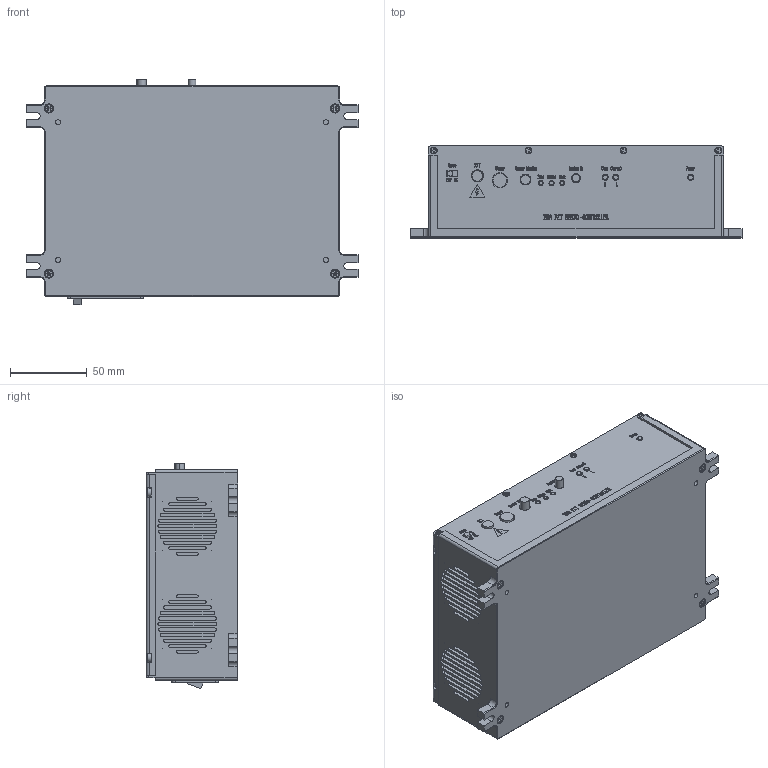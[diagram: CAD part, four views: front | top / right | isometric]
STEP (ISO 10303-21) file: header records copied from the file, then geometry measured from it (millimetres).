
FILE_DESCRIPTION (( 'STEP AP203' ), '1' );
FILE_NAME ('E52.B1S-H梓袧唳萇埭3D耀倰2021.09.27.STEP', '2021-09-27T01:06:27', ( 'Micorosoft' ), ( 'Micorosoft' ), 'SwSTEP 2.0', 'SolidWorks 2016', '' );
FILE_SCHEMA (( 'CONFIG_CONTROL_DESIGN' ));
Products named in the file (1): E52.B1S-H梓袧唳萇埭3D耀倰2021.09.27
Bounding box: 217 x 60 x 147.24 mm (x, y, z)
Volume: 1650944.4 mm3; surface area: 169085.9 mm2
Topology: 20 solids, 20 shells, 3154 faces, 8641 edges, 5671 vertices
Faces by surface type: plane 1711, bspline 895, cylinder 403, cone 137, torus 8
Entity records: 141949 total; most frequent: CARTESIAN_POINT 67423, ORIENTED_EDGE 17138, DIRECTION 12307, EDGE_CURVE 8569, VERTEX_POINT 5671, LINE 5663, VECTOR 5663, EDGE_LOOP 3438
